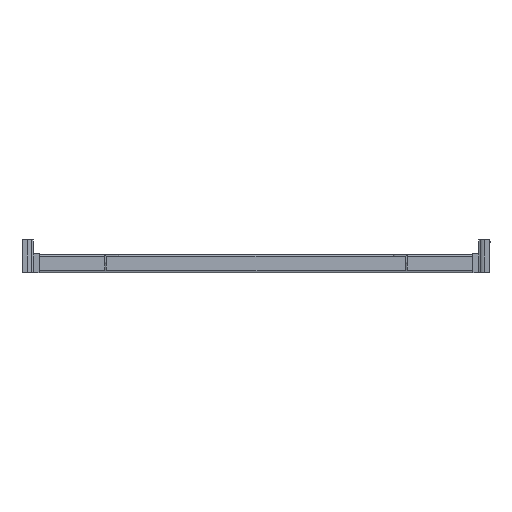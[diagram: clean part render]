
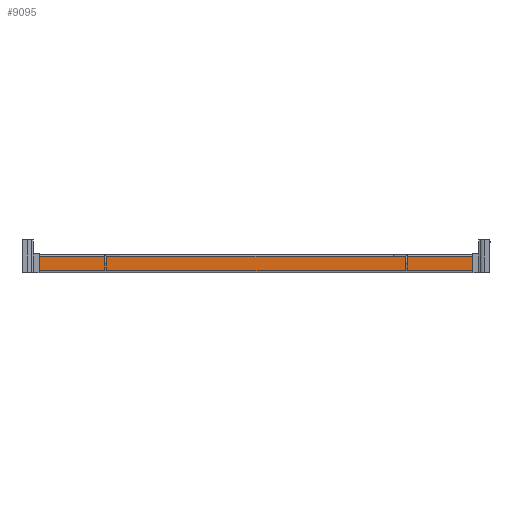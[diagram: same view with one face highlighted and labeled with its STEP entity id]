
A CAD part, left-side view. The second image highlights one B-rep face of the part: STEP entity #9095.
In plain terms, the highlighted planar face has unit normal (-1, 0, 0).
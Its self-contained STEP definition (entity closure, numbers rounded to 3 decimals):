
#115 = CARTESIAN_POINT ( 'NONE',  ( 11.75, 4369.45, 1580.8 ) ) ;
#134 = EDGE_CURVE ( 'NONE', #3307, #11580, #2357, .T. ) ;
#160 = EDGE_CURVE ( 'NONE', #15914, #656, #12437, .T. ) ;
#239 = ORIENTED_EDGE ( 'NONE', *, *, #2724, .T. ) ;
#381 = ORIENTED_EDGE ( 'NONE', *, *, #10293, .T. ) ;
#656 = VERTEX_POINT ( 'NONE', #1131 ) ;
#822 = EDGE_CURVE ( 'NONE', #9689, #7049, #2420, .T. ) ;
#976 = LINE ( 'NONE', #10663, #15240 ) ;
#1131 = CARTESIAN_POINT ( 'NONE',  ( 11.75, 4985.95, 1580.8 ) ) ;
#1164 = DIRECTION ( 'NONE',  ( -1., 0., 0. ) ) ;
#1320 = CARTESIAN_POINT ( 'NONE',  ( 11.75, 4974.95, 1576.8 ) ) ;
#1418 = EDGE_CURVE ( 'NONE', #7049, #3092, #8754, .T. ) ;
#1910 = AXIS2_PLACEMENT_3D ( 'NONE', #2219, #7111, #13107 ) ;
#2213 = DIRECTION ( 'NONE',  ( 0., 0., -1. ) ) ;
#2216 = CARTESIAN_POINT ( 'NONE',  ( 11.75, 4984.95, 1579.8 ) ) ;
#2219 = CARTESIAN_POINT ( 'NONE',  ( 11.75, 4379.45, 1578.8 ) ) ;
#2357 = LINE ( 'NONE', #9766, #15317 ) ;
#2420 = CIRCLE ( 'NONE', #1910, 1. ) ;
#2436 = CARTESIAN_POINT ( 'NONE',  ( 11.75, 5639.7, 1599.3 ) ) ;
#2556 = VECTOR ( 'NONE', #12444, 1000. ) ;
#2724 = EDGE_CURVE ( 'NONE', #656, #5373, #6935, .T. ) ;
#3090 = AXIS2_PLACEMENT_3D ( 'NONE', #4820, #16025, #2213 ) ;
#3092 = VERTEX_POINT ( 'NONE', #11171 ) ;
#3307 = VERTEX_POINT ( 'NONE', #9695 ) ;
#3337 = VECTOR ( 'NONE', #6488, 1000. ) ;
#3509 = DIRECTION ( 'NONE',  ( -1., 0., 0. ) ) ;
#3666 = PLANE ( 'NONE',  #5044 ) ;
#3693 = LINE ( 'NONE', #7832, #6804 ) ;
#3783 = CARTESIAN_POINT ( 'NONE',  ( 11.75, 4985.95, 1596.8 ) ) ;
#3979 = ORIENTED_EDGE ( 'NONE', *, *, #10392, .T. ) ;
#4017 = DIRECTION ( 'NONE',  ( 0., -1., 0. ) ) ;
#4352 = CIRCLE ( 'NONE', #15767, 1. ) ;
#4380 = VERTEX_POINT ( 'NONE', #7490 ) ;
#4445 = CARTESIAN_POINT ( 'NONE',  ( 11.75, 4380.45, 1578.8 ) ) ;
#4713 = CARTESIAN_POINT ( 'NONE',  ( 11.75, 4369.45, 1596.8 ) ) ;
#4820 = CARTESIAN_POINT ( 'NONE',  ( 11.75, 4975.95, 1578.8 ) ) ;
#4970 = DIRECTION ( 'NONE',  ( 0., 0., -1. ) ) ;
#5044 = AXIS2_PLACEMENT_3D ( 'NONE', #2436, #3509, #8623 ) ;
#5292 = CARTESIAN_POINT ( 'NONE',  ( 11.75, 4985.95, 1576.8 ) ) ;
#5373 = VERTEX_POINT ( 'NONE', #2216 ) ;
#5475 = EDGE_CURVE ( 'NONE', #3092, #14263, #4352, .T. ) ;
#5645 = ORIENTED_EDGE ( 'NONE', *, *, #7765, .T. ) ;
#5734 = EDGE_CURVE ( 'NONE', #4380, #9689, #976, .T. ) ;
#5847 = ORIENTED_EDGE ( 'NONE', *, *, #5734, .T. ) ;
#6073 = DIRECTION ( 'NONE',  ( 0., -1., 0. ) ) ;
#6145 = DIRECTION ( 'NONE',  ( 0., 0., -1. ) ) ;
#6402 = LINE ( 'NONE', #15176, #7055 ) ;
#6488 = DIRECTION ( 'NONE',  ( 0., -1., 0. ) ) ;
#6804 = VECTOR ( 'NONE', #4017, 1000. ) ;
#6935 = CIRCLE ( 'NONE', #10047, 1. ) ;
#7049 = VERTEX_POINT ( 'NONE', #8542 ) ;
#7055 = VECTOR ( 'NONE', #13868, 1000. ) ;
#7111 = DIRECTION ( 'NONE',  ( 1., 0., 0. ) ) ;
#7162 = DIRECTION ( 'NONE',  ( 0., 0., 1. ) ) ;
#7204 = DIRECTION ( 'NONE',  ( -1., 0., 0. ) ) ;
#7490 = CARTESIAN_POINT ( 'NONE',  ( 11.75, 4380.45, 1576.8 ) ) ;
#7565 = EDGE_CURVE ( 'NONE', #14810, #14263, #6402, .T. ) ;
#7605 = LINE ( 'NONE', #3783, #10128 ) ;
#7765 = EDGE_CURVE ( 'NONE', #5373, #15901, #3693, .T. ) ;
#7786 = VECTOR ( 'NONE', #4970, 1000. ) ;
#7832 = CARTESIAN_POINT ( 'NONE',  ( 11.75, 5639.7, 1579.8 ) ) ;
#8120 = ORIENTED_EDGE ( 'NONE', *, *, #134, .T. ) ;
#8393 = ORIENTED_EDGE ( 'NONE', *, *, #11177, .F. ) ;
#8534 = CARTESIAN_POINT ( 'NONE',  ( 11.75, 4985.95, 1596.8 ) ) ;
#8542 = CARTESIAN_POINT ( 'NONE',  ( 11.75, 4379.45, 1579.8 ) ) ;
#8623 = DIRECTION ( 'NONE',  ( 0., -1., 0. ) ) ;
#8754 = LINE ( 'NONE', #13696, #3337 ) ;
#8878 = DIRECTION ( 'NONE',  ( 0., 0., -1. ) ) ;
#9095 = ADVANCED_FACE ( 'NONE', ( #9690 ), #3666, .T. ) ;
#9515 = ORIENTED_EDGE ( 'NONE', *, *, #5475, .T. ) ;
#9689 = VERTEX_POINT ( 'NONE', #4445 ) ;
#9690 = FACE_OUTER_BOUND ( 'NONE', #15776, .T. ) ;
#9695 = CARTESIAN_POINT ( 'NONE',  ( 11.75, 4974.95, 1578.8 ) ) ;
#9766 = CARTESIAN_POINT ( 'NONE',  ( 11.75, 4974.95, 1584.55 ) ) ;
#9979 = ORIENTED_EDGE ( 'NONE', *, *, #7565, .F. ) ;
#10047 = AXIS2_PLACEMENT_3D ( 'NONE', #13372, #7204, #6145 ) ;
#10128 = VECTOR ( 'NONE', #6073, 1000. ) ;
#10293 = EDGE_CURVE ( 'NONE', #15901, #3307, #11920, .T. ) ;
#10392 = EDGE_CURVE ( 'NONE', #11580, #4380, #11231, .T. ) ;
#10657 = CARTESIAN_POINT ( 'NONE',  ( 11.75, 4975.95, 1579.8 ) ) ;
#10663 = CARTESIAN_POINT ( 'NONE',  ( 11.75, 4380.45, 1584.55 ) ) ;
#11080 = CARTESIAN_POINT ( 'NONE',  ( 11.75, 4370.45, 1580.8 ) ) ;
#11171 = CARTESIAN_POINT ( 'NONE',  ( 11.75, 4370.45, 1579.8 ) ) ;
#11177 = EDGE_CURVE ( 'NONE', #15914, #14810, #7605, .T. ) ;
#11231 = LINE ( 'NONE', #5292, #2556 ) ;
#11580 = VERTEX_POINT ( 'NONE', #1320 ) ;
#11920 = CIRCLE ( 'NONE', #3090, 1. ) ;
#12437 = LINE ( 'NONE', #15782, #7786 ) ;
#12444 = DIRECTION ( 'NONE',  ( 0., -1., 0. ) ) ;
#13107 = DIRECTION ( 'NONE',  ( 0., 0., -1. ) ) ;
#13372 = CARTESIAN_POINT ( 'NONE',  ( 11.75, 4984.95, 1580.8 ) ) ;
#13696 = CARTESIAN_POINT ( 'NONE',  ( 11.75, 6289.7, 1579.8 ) ) ;
#13849 = ORIENTED_EDGE ( 'NONE', *, *, #160, .T. ) ;
#13868 = DIRECTION ( 'NONE',  ( 0., 0., -1. ) ) ;
#14263 = VERTEX_POINT ( 'NONE', #115 ) ;
#14473 = ORIENTED_EDGE ( 'NONE', *, *, #1418, .T. ) ;
#14810 = VERTEX_POINT ( 'NONE', #4713 ) ;
#15176 = CARTESIAN_POINT ( 'NONE',  ( 11.75, 4369.45, 1599.3 ) ) ;
#15240 = VECTOR ( 'NONE', #7162, 1000. ) ;
#15317 = VECTOR ( 'NONE', #15865, 1000. ) ;
#15346 = ORIENTED_EDGE ( 'NONE', *, *, #822, .T. ) ;
#15767 = AXIS2_PLACEMENT_3D ( 'NONE', #11080, #1164, #8878 ) ;
#15776 = EDGE_LOOP ( 'NONE', ( #13849, #239, #5645, #381, #8120, #3979, #5847, #15346, #14473, #9515, #9979, #8393 ) ) ;
#15782 = CARTESIAN_POINT ( 'NONE',  ( 11.75, 4985.95, 1599.3 ) ) ;
#15865 = DIRECTION ( 'NONE',  ( 0., 0., -1. ) ) ;
#15901 = VERTEX_POINT ( 'NONE', #10657 ) ;
#15914 = VERTEX_POINT ( 'NONE', #8534 ) ;
#16025 = DIRECTION ( 'NONE',  ( 1., 0., 0. ) ) ;
